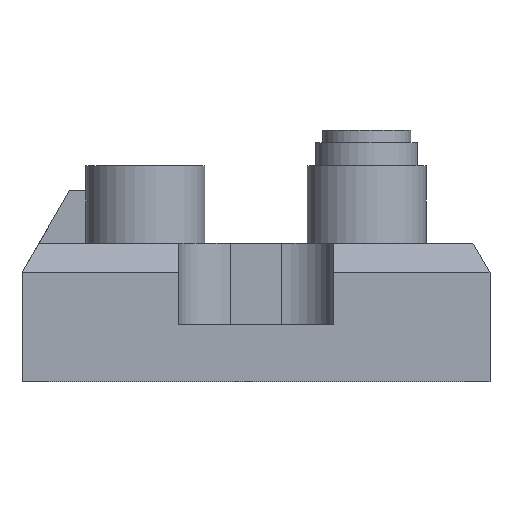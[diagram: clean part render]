
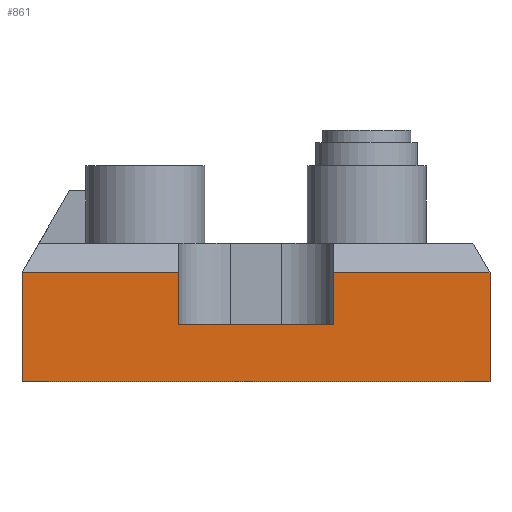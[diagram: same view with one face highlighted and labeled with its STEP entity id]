
A CAD part, front view. The second image highlights one B-rep face of the part: STEP entity #861.
In plain terms, the highlighted planar face has unit normal (0, -1, 0).
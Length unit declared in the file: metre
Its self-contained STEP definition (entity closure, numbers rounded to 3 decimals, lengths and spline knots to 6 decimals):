
#790=CARTESIAN_POINT($,(0.0275,-0.0225,0.008));
#791=DIRECTION($,(0.,-1.,0.));
#792=DIRECTION($,(0.,0.,-1.));
#793=AXIS2_PLACEMENT_3D($,#790,#791,#792);
#794=PLANE($,#793);
#795=DIRECTION($,(0.,0.,1.));
#796=CARTESIAN_POINT($,(-0.0091,-0.0225,-0.0016));
#797=VECTOR($,#795,0.006136);
#798=LINE($,#796,#797);
#799=CARTESIAN_POINT($,(-0.0091,-0.0225,-0.0016));
#800=VERTEX_POINT($,#799);
#801=CARTESIAN_POINT($,(-0.0091,-0.0225,0.004536));
#802=VERTEX_POINT($,#801);
#803=EDGE_CURVE($,#800,#802,#798,.T.);
#804=ORIENTED_EDGE($,*,*,#803,.T.);
#805=DIRECTION($,(-1.,0.,0.));
#806=CARTESIAN_POINT($,(-0.0255,-0.0225,0.004536));
#807=VECTOR($,#805,0.0184);
#808=LINE($,#806,#807);
#809=CARTESIAN_POINT($,(-0.0275,-0.0225,0.004536));
#810=VERTEX_POINT($,#809);
#811=EDGE_CURVE($,#802,#810,#808,.T.);
#812=ORIENTED_EDGE($,*,*,#811,.T.);
#813=DIRECTION($,(0.,0.,-1.));
#814=CARTESIAN_POINT($,(-0.0275,-0.0225,0.008));
#815=VECTOR($,#813,0.012836);
#816=LINE($,#814,#815);
#817=CARTESIAN_POINT($,(-0.0275,-0.0225,-0.0083));
#818=VERTEX_POINT($,#817);
#819=EDGE_CURVE($,#810,#818,#816,.T.);
#820=ORIENTED_EDGE($,*,*,#819,.T.);
#821=DIRECTION($,(-1.,0.,0.));
#822=CARTESIAN_POINT($,(0.0275,-0.0225,-0.0083));
#823=VECTOR($,#821,0.055);
#824=LINE($,#822,#823);
#825=CARTESIAN_POINT($,(0.0275,-0.0225,-0.0083));
#826=VERTEX_POINT($,#825);
#827=EDGE_CURVE($,#826,#818,#824,.T.);
#828=ORIENTED_EDGE($,*,*,#827,.F.);
#829=DIRECTION($,(0.,0.,-1.));
#830=CARTESIAN_POINT($,(0.0275,-0.0225,0.008));
#831=VECTOR($,#829,0.012836);
#832=LINE($,#830,#831);
#833=CARTESIAN_POINT($,(0.0275,-0.0225,0.004536));
#834=VERTEX_POINT($,#833);
#835=EDGE_CURVE($,#834,#826,#832,.T.);
#836=ORIENTED_EDGE($,*,*,#835,.F.);
#837=DIRECTION($,(-1.,0.,0.));
#838=CARTESIAN_POINT($,(0.0091,-0.0225,0.004536));
#839=VECTOR($,#837,0.0184);
#840=LINE($,#838,#839);
#841=CARTESIAN_POINT($,(0.0091,-0.0225,0.004536));
#842=VERTEX_POINT($,#841);
#843=EDGE_CURVE($,#834,#842,#840,.T.);
#844=ORIENTED_EDGE($,*,*,#843,.T.);
#845=DIRECTION($,(0.,0.,1.));
#846=CARTESIAN_POINT($,(0.0091,-0.0225,-0.0016));
#847=VECTOR($,#845,0.006136);
#848=LINE($,#846,#847);
#849=CARTESIAN_POINT($,(0.0091,-0.0225,-0.0016));
#850=VERTEX_POINT($,#849);
#851=EDGE_CURVE($,#850,#842,#848,.T.);
#852=ORIENTED_EDGE($,*,*,#851,.F.);
#853=DIRECTION($,(1.,0.,0.));
#854=CARTESIAN_POINT($,(-0.0091,-0.0225,-0.0016));
#855=VECTOR($,#853,0.0182);
#856=LINE($,#854,#855);
#857=EDGE_CURVE($,#800,#850,#856,.T.);
#858=ORIENTED_EDGE($,*,*,#857,.F.);
#859=EDGE_LOOP($,(#804,#812,#820,#828,#836,#844,#852,#858));
#860=FACE_OUTER_BOUND($,#859,.T.);
#861=ADVANCED_FACE($,(#860),#794,.T.);
